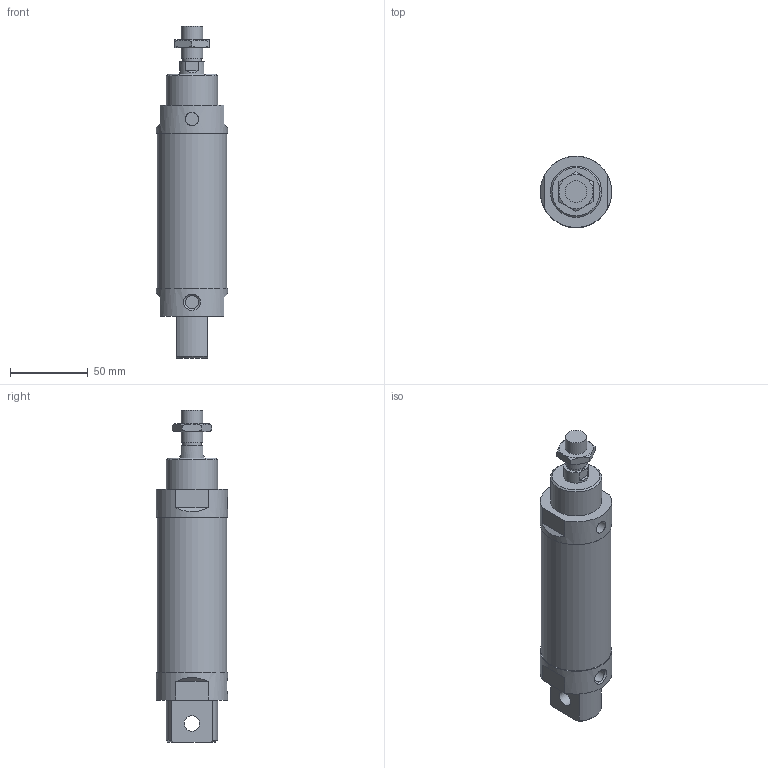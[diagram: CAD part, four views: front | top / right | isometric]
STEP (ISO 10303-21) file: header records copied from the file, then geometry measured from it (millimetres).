
FILE_DESCRIPTION((''),'2;1');
FILE_NAME('I:\3D電子目錄\氣缸\FDA\FDA\FDA\FDA40\FDA40x50.stp','2007-10-23T13:29:48',('66-2f-008'),(''),'Autodesk Inventor 11','Autodesk Inventor 11','');
FILE_SCHEMA(('AUTOMOTIVE_DESIGN { 1 0 10303 214 1 1 1 1 }'));
Length unit declared in the file: millimetre
Products named in the file (1): FDA40
Bounding box: 45.99 x 45.95 x 214 mm (x, y, z)
Volume: 254557.5 mm3; surface area: 30243.7 mm2
Topology: 1 solids, 1 shells, 62 faces, 144 edges, 95 vertices
Faces by surface type: plane 29, cone 15, cylinder 13, bspline 5
Full cylindrical faces by diameter (mm): 8.5 x2, 10 x1, 12 x1, 14 x2, 16 x1, 33 x1, 45 x1, 46 x2
Entity records: 1929 total; most frequent: CARTESIAN_POINT 638, DIRECTION 256, ORIENTED_EDGE 250, EDGE_CURVE 125, AXIS2_PLACEMENT_3D 106, VERTEX_POINT 88, EDGE_LOOP 87, FACE_OUTER_BOUND 62
